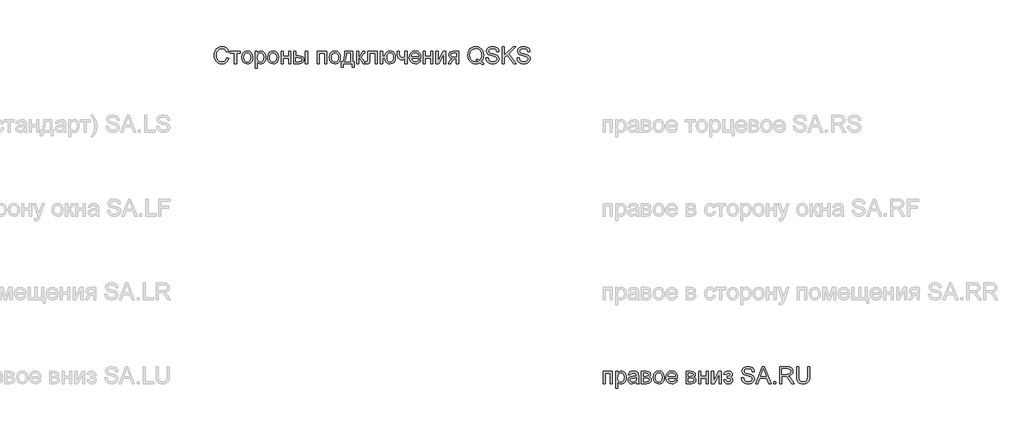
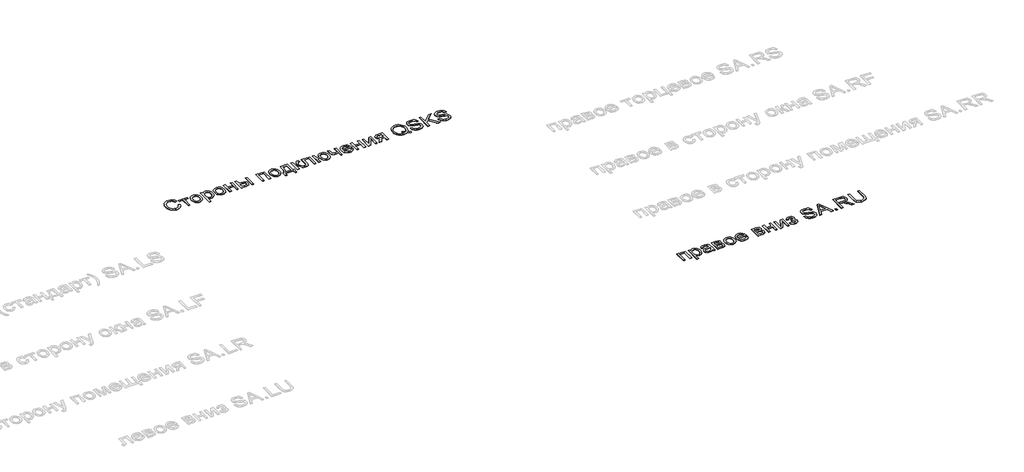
# One storey, part 7 of 17: 2 proxies.
"""IFC4 building model written with IfcOpenShell, lengths in millimetres."""

from ifc_helpers import new_model, si_unit, origin, origin_with_axes, place, context, project, spatial, polyline, outline, extrude, element, save

model = new_model("IFC4")

# Units and contexts
model_context = context("Model", 3, world=origin())
ifc_project = project(units=[si_unit("LENGTHUNIT", "METRE", prefix="MILLI")], contexts=[model_context])

# Site, building, storey
site = spatial("IfcSite", under=ifc_project)
building = spatial("IfcBuilding", under=site)
storey = spatial("IfcBuildingStorey", under=building, Name="Уровень 1", Elevation=0.0)

# Proxies
placement = place(None, origin())
element("IfcBuildingElementProxy", 1, Name="Текст модели 1", ObjectType="Текст модели 1", at=placement, inside=storey, context=model_context, shape_type="SweptSolid", body=[
    extrude(outline(polyline([(19945.2525165, -8836.8243123), (19970.366594, -8843.2990354), (19958.7783111, -8872.5640481), (19940.5926779, -8893.9441234), (19916.7048736, -8907.0223283), (19888.010078, -8911.3817299), (19858.8799554, -8908.0830547), (19835.7463092, -8898.187029), (19818.0143971, -8882.0370095), (19805.0894763, -8859.9763525), (19797.1984075, -8834.0406718), (19794.5680512, -8806.2655812), (19797.541764, -8776.9699116), (19806.4629024, -8751.6718931), (19820.8654825, -8731.1747346), (19840.2835205, -8716.2816452), (19863.3129334, -8707.213354), (19888.5496383, -8704.1905903), (19916.0856056, -8708.1024021), (19938.8513697, -8719.8378378), (19956.1356921, -8738.6733959), (19967.2273343, -8763.8855753), (19942.1132568, -8769.8697891), (19933.4067162, -8751.5553971), (19921.511865, -8738.992227), (19906.2815504, -8731.7265576), (19887.5686196, -8729.3046678), (19865.998472, -8731.9902064), (19848.2788225, -8740.0468221), (19834.8327356, -8752.6283863), (19826.0832755, -8768.8887705), (19821.2824154, -8787.2706075), (19819.6821288, -8806.2165303), (19821.576721, -8829.4176214), (19827.2604979, -8849.4794529), (19836.9480571, -8865.6356038), (19850.8539965, -8877.1196535), (19867.5251822, -8883.9806527), (19885.5084804, -8886.2676524), (19906.4716228, -8883.1529182), (19923.9398862, -8873.8087155), (19937.1284557, -8858.3331462), (19945.2525165, -8836.8243123)])), origin_with_axes(), (0.0, 0.0, 1.0), 2.0),
    extrude(outline(polyline([(19989.2021521, -8760.6972647), (20108.4940204, -8760.6972647), (20108.4940204, -8785.8113423), (20061.4051251, -8785.8113423), (20061.4051251, -8908.2424702), (20036.2910475, -8908.2424702), (20036.2910475, -8785.8113423), (19989.2021521, -8785.8113423), (19989.2021521, -8760.6972647)])), origin_with_axes(), (0.0, 0.0, 1.0), 2.0),
    extrude(outline(polyline([(20124.1903189, -8834.4698675), (20129.6227097, -8798.8956785), (20136.4131982, -8785.0725126), (20145.9198821, -8773.8919656), (20166.05529, -8761.6414952), (20190.1638234, -8757.558005), (20216.5470938, -8762.5305433), (20237.6206008, -8777.4481582), (20251.4345697, -8801.1336274), (20256.039226, -8832.4097283), (20254.0036123, -8857.7813232), (20247.8967712, -8877.095128), (20237.8965123, -8891.5590218), (20224.1806452, -8902.3808838), (20207.8896042, -8909.1315184), (20190.1638234, -8911.3817299), (20163.4617219, -8906.4275857), (20142.4127404, -8891.5651531), (20128.7459243, -8867.3830433), (20124.1903189, -8834.4698675)]), holes=[polyline([(20149.3043964, -8834.4208165), (20152.2106642, -8857.1497925), (20160.9294675, -8873.3427316), (20174.050592, -8883.0364222), (20190.1638234, -8886.2676524), (20206.2034784, -8883.0180281), (20219.3000774, -8873.2691552), (20228.0188807, -8856.8616183), (20230.9251484, -8833.6360016), (20228.0004866, -8811.5692133), (20219.226501, -8795.5970033), (20206.1115079, -8785.9033128), (20190.1638234, -8782.6720826), (20174.050592, -8785.89105), (20160.9294675, -8795.5479524), (20152.2106642, -8811.7041033), (20149.3043964, -8834.4208165)])]), origin_with_axes(), (0.0, 0.0, 1.0), 2.0),
    extrude(outline(polyline([(20284.2925632, -8964.7491447), (20284.2925632, -8760.6972647), (20309.4066407, -8760.6972647), (20309.4066407, -8785.3208329), (20326.7706709, -8764.498712), (20337.4637742, -8759.2931818), (20350.2170167, -8757.558005), (20367.2009022, -8759.9860262), (20382.0510721, -8767.2700897), (20394.142127, -8778.9687371), (20402.8486675, -8794.6405101), (20408.1093801, -8813.1449745), (20409.8629509, -8833.341696), (20407.8825195, -8854.8198732), (20401.9412253, -8874.0294447), (20392.2291406, -8889.9955233), (20378.9363378, -8901.7432217), (20363.4546372, -8908.9721029), (20347.1758589, -8911.3817299), (20335.6304956, -8909.7691805), (20325.3236684, -8904.9315323), (20309.4066407, -8888.6220972), (20309.4066407, -8964.7491447), (20284.2925632, -8964.7491447)]), holes=[polyline([(20309.4066407, -8835.6470899), (20312.1228361, -8858.161468), (20320.2714223, -8873.9068174), (20332.2950322, -8883.1774436), (20346.6362987, -8886.2676524), (20361.210557, -8883.067079), (20373.5407352, -8873.465359), (20381.9468388, -8857.1436611), (20384.7488734, -8833.7831544), (20382.0142839, -8811.3914037), (20373.8105154, -8795.4253251), (20361.8052996, -8785.8603932), (20347.6663682, -8782.6720826), (20333.4722546, -8786.0627283), (20321.0071863, -8796.2346654), (20312.3067771, -8812.869063), (20309.4066407, -8835.6470899)])]), origin_with_axes(), (0.0, 0.0, 1.0), 2.0),
    extrude(outline(polyline([(20431.8377687, -8834.4698675), (20437.2701595, -8798.8956785), (20444.060648, -8785.0725126), (20453.5673319, -8773.8919656), (20473.7027398, -8761.6414952), (20497.8112732, -8757.558005), (20524.1945436, -8762.5305433), (20545.2680506, -8777.4481582), (20559.0820195, -8801.1336274), (20563.6866758, -8832.4097283), (20561.6510621, -8857.7813232), (20555.544221, -8877.095128), (20545.5439621, -8891.5590218), (20531.828095, -8902.3808838), (20515.537054, -8909.1315184), (20497.8112732, -8911.3817299), (20471.1091717, -8906.4275857), (20450.0601902, -8891.5651531), (20436.3933741, -8867.3830433), (20431.8377687, -8834.4698675)]), holes=[polyline([(20456.9518463, -8834.4208165), (20459.858114, -8857.1497925), (20468.5769173, -8873.3427316), (20481.6980418, -8883.0364222), (20497.8112732, -8886.2676524), (20513.8509282, -8883.0180281), (20526.9475272, -8873.2691552), (20535.6663305, -8856.8616183), (20538.5725983, -8833.6360016), (20535.6479364, -8811.5692133), (20526.8739508, -8795.5970033), (20513.7589577, -8785.9033128), (20497.8112732, -8782.6720826), (20481.6980418, -8785.89105), (20468.5769173, -8795.5479524), (20459.858114, -8811.7041033), (20456.9518463, -8834.4208165)])]), origin_with_axes(), (0.0, 0.0, 1.0), 2.0),
    extrude(outline(polyline([(20591.940013, -8760.6972647), (20617.0540906, -8760.6972647), (20617.0540906, -8817.2039392), (20682.9785441, -8817.2039392), (20682.9785441, -8760.6972647), (20708.0926217, -8760.6972647), (20708.0926217, -8908.2424702), (20682.9785441, -8908.2424702), (20682.9785441, -8842.3180167), (20617.0540906, -8842.3180167), (20617.0540906, -8908.2424702), (20591.940013, -8908.2424702), (20591.940013, -8760.6972647)])), origin_with_axes(), (0.0, 0.0, 1.0), 2.0),
    extrude(outline(polyline([(20883.8911644, -8760.6972647), (20909.005242, -8760.6972647), (20909.005242, -8908.2424702), (20883.8911644, -8908.2424702), (20883.8911644, -8760.6972647)])), origin_with_axes(), (0.0, 0.0, 1.0), 2.0),
    extrude(outline(polyline([(20745.763738, -8760.6972647), (20770.8778155, -8760.6972647), (20770.8778155, -8814.0646795), (20801.9270559, -8814.0646795), (20828.7640474, -8817.2100705), (20848.6480693, -8826.6462437), (20860.953722, -8841.6129096), (20865.0556063, -8861.3497786), (20861.6159096, -8879.3208141), (20851.2968196, -8894.4836836), (20833.423886, -8904.8027736), (20807.3226585, -8908.2424702), (20745.763738, -8908.2424702), (20745.763738, -8760.6972647)]), holes=[polyline([(20770.8778155, -8883.1283927), (20796.6786061, -8883.1283927), (20816.6791239, -8881.8101489), (20829.9841894, -8877.8554174), (20837.4521939, -8871.1047828), (20839.9415287, -8861.3988295), (20838.0959874, -8853.195061), (20832.5593634, -8845.9477857), (20820.7196945, -8840.8710142), (20799.9650186, -8839.178757), (20770.8778155, -8839.178757), (20770.8778155, -8883.1283927)])]), origin_with_axes(), (0.0, 0.0, 1.0), 2.0),
    extrude(outline(polyline([(21025.1578506, -8760.6972647), (21138.1711995, -8760.6972647), (21138.1711995, -8908.2424702), (21113.0571219, -8908.2424702), (21113.0571219, -8785.8113423), (21050.2719281, -8785.8113423), (21050.2719281, -8908.2424702), (21025.1578506, -8908.2424702), (21025.1578506, -8760.6972647)])), origin_with_axes(), (0.0, 0.0, 1.0), 2.0),
    extrude(outline(polyline([(21169.5637964, -8834.4698675), (21174.9961872, -8798.8956785), (21181.7866757, -8785.0725126), (21191.2933596, -8773.8919656), (21211.4287675, -8761.6414952), (21235.5373009, -8757.558005), (21261.9205713, -8762.5305433), (21282.9940783, -8777.4481582), (21296.8080472, -8801.1336274), (21301.4127035, -8832.4097283), (21299.3770898, -8857.7813232), (21293.2702486, -8877.095128), (21283.2699897, -8891.5590218), (21269.5541227, -8902.3808838), (21253.2630817, -8909.1315184), (21235.5373009, -8911.3817299), (21208.8351994, -8906.4275857), (21187.7862179, -8891.5651531), (21174.1194018, -8867.3830433), (21169.5637964, -8834.4698675)]), holes=[polyline([(21194.6778739, -8834.4208165), (21197.5841417, -8857.1497925), (21206.302945, -8873.3427316), (21219.4240695, -8883.0364222), (21235.5373009, -8886.2676524), (21251.5769559, -8883.0180281), (21264.6735549, -8873.2691552), (21273.3923582, -8856.8616183), (21276.2986259, -8833.6360016), (21273.3739641, -8811.5692133), (21264.5999785, -8795.5970033), (21251.4849854, -8785.9033128), (21235.5373009, -8782.6720826), (21219.4240695, -8785.89105), (21206.302945, -8795.5479524), (21197.5841417, -8811.7041033), (21194.6778739, -8834.4208165)])]), origin_with_axes(), (0.0, 0.0, 1.0), 2.0),
    extrude(outline(polyline([(21351.6408586, -8760.6972647), (21445.8186493, -8760.6972647), (21445.8186493, -8883.1283927), (21464.6542075, -8883.1283927), (21464.6542075, -8949.0528462), (21439.5401299, -8949.0528462), (21439.5401299, -8908.2424702), (21335.9445601, -8908.2424702), (21335.9445601, -8949.0528462), (21310.8304826, -8949.0528462), (21310.8304826, -8883.1283927), (21326.526781, -8883.1283927), (21337.9372542, -8862.5086069), (21345.9264249, -8835.2301569), (21350.494293, -8801.2930429), (21351.6408586, -8760.6972647)]), holes=[polyline([(21373.6156764, -8785.8113423), (21367.7295645, -8843.0292552), (21354.7801182, -8883.1283927), (21420.7045718, -8883.1283927), (21420.7045718, -8785.8113423), (21373.6156764, -8785.8113423)])]), origin_with_axes(), (0.0, 0.0, 1.0), 2.0),
    extrude(outline(polyline([(21492.9075447, -8760.6972647), (21518.0216222, -8760.6972647), (21518.0216222, -8823.4824586), (21534.8460921, -8818.9697728), (21548.6294042, -8792.6784728), (21560.082797, -8769.9924165), (21570.1872892, -8762.6102511), (21588.5568634, -8760.6972647), (21593.3638548, -8760.6972647), (21593.3638548, -8785.9584951), (21586.5948261, -8785.8113423), (21574.332093, -8788.4600926), (21565.6991288, -8804.9902569), (21555.5701112, -8822.8693219), (21541.3698662, -8831.6249134), (21557.2133175, -8841.3983117), (21572.7624631, -8861.9874407), (21599.6423742, -8908.2424702), (21571.0947314, -8908.2424702), (21544.7543806, -8862.9684594), (21531.5106287, -8843.8140702), (21518.0216222, -8839.178757), (21518.0216222, -8908.2424702), (21492.9075447, -8908.2424702), (21492.9075447, -8760.6972647)])), origin_with_axes(), (0.0, 0.0, 1.0), 2.0),
    extrude(outline(polyline([(21627.8957115, -8760.6972647), (21740.9090604, -8760.6972647), (21740.9090604, -8908.0953174), (21715.7949828, -8908.0953174), (21715.7949828, -8785.8113423), (21653.009789, -8785.8113423), (21653.009789, -8856.1994307), (21651.3175318, -8888.6711481), (21642.0223801, -8902.3808838), (21632.7272283, -8906.7770736), (21620.0475622, -8908.2424702), (21599.6423742, -8906.967146), (21599.6423742, -8883.1283927), (21610.8750378, -8883.1283927), (21622.2303287, -8881.5832883), (21626.76754, -8876.6781951), (21627.8957115, -8854.7769536), (21627.8957115, -8760.6972647)])), origin_with_axes(), (0.0, 0.0, 1.0), 2.0),
    extrude(outline(polyline([(21778.5801767, -8760.6972647), (21803.6942542, -8760.6972647), (21803.6942542, -8817.2039392), (21831.9475915, -8817.2039392), (21838.4652341, -8791.5993523), (21851.4453372, -8772.861896), (21870.0662975, -8761.3839778), (21893.506512, -8757.558005), (21913.2065928, -8759.8082166), (21928.2590978, -8766.5588512), (21939.8719061, -8777.2580859), (21949.252897, -8791.3540976), (21955.4517086, -8809.8953502), (21957.5179791, -8833.9303072), (21953.2444166, -8867.4320942), (21940.4237291, -8891.7123059), (21920.2821899, -8906.4643739), (21894.0460722, -8911.3817299), (21869.5267373, -8906.7709423), (21850.4152676, -8892.9385792), (21837.5945801, -8871.0618633), (21831.9475915, -8842.3180167), (21803.6942542, -8842.3180167), (21803.6942542, -8908.2424702), (21778.5801767, -8908.2424702), (21778.5801767, -8760.6972647)]), holes=[polyline([(21895.1251928, -8782.6720826), (21879.1161946, -8785.9217069), (21867.0925847, -8795.6705797), (21859.5693979, -8811.2810391), (21857.061669, -8832.1154227), (21859.587792, -8856.389503), (21867.1661611, -8873.1955788), (21878.9751732, -8882.999634), (21894.193225, -8886.2676524), (21909.4541965, -8883.2448887), (21921.6862728, -8874.1765975), (21929.7244944, -8858.3760658), (21932.4039016, -8835.1565805), (21930.086245, -8812.1946127), (21923.1332753, -8795.7932071), (21911.4959415, -8785.9523637), (21895.1251928, -8782.6720826)])]), origin_with_axes(), (0.0, 0.0, 1.0), 2.0),
    extrude(outline(polyline([(21979.492797, -8760.6972647), (22004.6068745, -8760.6972647), (22004.6068745, -8788.9996529), (22006.6424882, -8815.5362075), (22016.4281493, -8829.9081307), (22025.1592153, -8834.5066557), (22035.8523186, -8836.0394973), (22070.5313281, -8828.4366028), (22070.5313281, -8760.6972647), (22095.6454056, -8760.6972647), (22095.6454056, -8908.2424702), (22070.5313281, -8908.2424702), (22070.5313281, -8852.5206107), (22049.0960705, -8858.9953338), (22029.1323409, -8861.1535749), (22013.9449458, -8858.9033633), (22000.6582744, -8852.1527287), (21990.3023963, -8842.1402071), (21983.9073809, -8830.1043345), (21979.492797, -8801.4095388), (21979.492797, -8760.6972647)])), origin_with_axes(), (0.0, 0.0, 1.0), 2.0),
    extrude(outline(polyline([(22236.6177861, -8864.2928346), (22261.2413544, -8867.4320942), (22252.3692669, -8885.9856095), (22238.2119415, -8899.8547608), (22219.0882091, -8908.4999876), (22195.3169008, -8911.3817299), (22165.849553, -8906.4091916), (22143.1757594, -8891.4915767), (22128.717997, -8867.5976411), (22123.8987428, -8835.6961408), (22128.7670479, -8802.7216513), (22143.3719631, -8778.0612949), (22165.7391884, -8762.6838275), (22193.8944238, -8757.558005), (22221.1728737, -8762.6715648), (22242.9698819, -8778.012244), (22257.2620974, -8802.6235494), (22262.0261693, -8835.548988), (22261.8790165, -8842.3180167), (22149.0128204, -8842.3180167), (22153.3599593, -8861.1167867), (22163.45832, -8874.936887), (22178.0325784, -8883.434961), (22195.8074101, -8886.2676524), (22220.4309784, -8881.0192026), (22229.5789773, -8874.2133857), (22236.6177861, -8864.2928346)]), holes=[polyline([(22149.0128204, -8817.2039392), (22236.9120917, -8817.2039392), (22233.5153147, -8803.9356619), (22226.8566505, -8794.4443064), (22212.2149471, -8785.6151385), (22193.7963219, -8782.6720826), (22176.8676188, -8785.020396), (22162.8697088, -8792.0653362), (22153.1392301, -8803.0466137), (22149.0128204, -8817.2039392)])]), origin_with_axes(), (0.0, 0.0, 1.0), 2.0),
    extrude(outline(polyline([(22287.1402468, -8760.6972647), (22312.2543244, -8760.6972647), (22312.2543244, -8817.2039392), (22378.1787779, -8817.2039392), (22378.1787779, -8760.6972647), (22403.2928554, -8760.6972647), (22403.2928554, -8908.2424702), (22378.1787779, -8908.2424702), (22378.1787779, -8842.3180167), (22312.2543244, -8842.3180167), (22312.2543244, -8908.2424702), (22287.1402468, -8908.2424702), (22287.1402468, -8760.6972647)])), origin_with_axes(), (0.0, 0.0, 1.0), 2.0),
    extrude(outline(polyline([(22440.9639717, -8760.6972647), (22466.0780493, -8760.6972647), (22466.0780493, -8873.2201043), (22527.7841226, -8760.6972647), (22560.25584, -8760.6972647), (22560.25584, -8908.2424702), (22535.1417625, -8908.2424702), (22535.1417625, -8796.4063437), (22473.8280966, -8908.2424702), (22440.9639717, -8908.2424702), (22440.9639717, -8760.6972647)])), origin_with_axes(), (0.0, 0.0, 1.0), 2.0),
    extrude(outline(polyline([(22710.9403053, -8760.6972647), (22710.9403053, -8908.2424702), (22685.8262277, -8908.2424702), (22685.8262277, -8851.7357958), (22672.1410175, -8851.7357958), (22653.5016631, -8854.9241064), (22635.9904801, -8876.359364), (22615.9776996, -8908.2424702), (22586.9395474, -8908.2424702), (22612.1517268, -8867.9226036), (22623.2862885, -8853.4525784), (22633.5379335, -8847.0269063), (22616.370107, -8841.7661937), (22604.3035776, -8831.7720662), (22597.1666669, -8818.4792634), (22594.7876967, -8803.3225252), (22598.0373209, -8786.1301733), (22607.7861938, -8772.5185395), (22623.6909587, -8763.6525834), (22645.4082592, -8760.6972647), (22710.9403053, -8760.6972647)]), holes=[polyline([(22685.8262277, -8785.8113423), (22652.7168482, -8785.8113423), (22635.6164668, -8787.2644761), (22625.9105134, -8791.6238778), (22619.9017742, -8805.2355116), (22622.1151975, -8814.8065748), (22628.7554675, -8821.4468449), (22641.0243321, -8825.3279999), (22660.123539, -8826.6217183), (22685.8262277, -8826.6217183), (22685.8262277, -8785.8113423)])]), origin_with_axes(), (0.0, 0.0, 1.0), 2.0),
    extrude(outline(polyline([(22981.1618935, -8884.1584623), (23012.3092357, -8905.1032106), (23005.540207, -8923.4973103), (22984.8284507, -8913.8955902), (22964.1902707, -8900.0019136), (22940.9523914, -8908.5367758), (22915.3845927, -8911.3817299), (22889.6941667, -8908.1014488), (22866.4808128, -8898.2606054), (22847.0382494, -8882.4784679), (22832.6601947, -8861.3743041), (22823.7758446, -8836.1069424), (22820.8143945, -8807.835211), (22823.7697132, -8779.5389542), (22832.6356693, -8753.9037105), (22846.9585416, -8732.4991098), (22866.2846091, -8716.8947818), (22889.4121239, -8707.3666381), (22915.1393381, -8704.1905903), (22941.0688873, -8707.4402145), (22964.3128981, -8717.1890874), (22983.6083087, -8732.787284), (22997.6920578, -8753.5848795), (23006.3004965, -8778.4782278), (23009.169976, -8806.3636831), (23007.4286679, -8829.5525115), (23002.2047436, -8850.2642678), (22993.4614148, -8868.4744266), (22981.1618935, -8884.1584623)]), holes=[polyline([(22922.3007742, -8850.7547771), (22943.4172007, -8858.7378164), (22960.4623999, -8869.83559), (22970.7845555, -8858.1859934), (22978.1575238, -8843.9366975), (22982.5813048, -8827.0877021), (22984.0558985, -8807.6390073), (22981.9712338, -8785.5354308), (22975.7172399, -8766.4116984), (22965.4472009, -8750.7521881), (22951.3144009, -8739.0412779), (22934.2753332, -8731.7388203), (22915.2864909, -8729.3046678), (22887.9160704, -8734.2281552), (22865.646947, -8748.9986173), (22857.0201142, -8760.0580697), (22850.8580908, -8773.5424777), (22845.928472, -8807.7861601), (22850.8029085, -8841.2940785), (22856.895954, -8854.7416983), (22865.4262178, -8865.9850917), (22887.6278962, -8881.1970122), (22915.2374399, -8886.2676524), (22942.2645038, -8881.1173045), (22915.8260511, -8869.9827427), (22922.3007742, -8850.7547771)])]), origin_with_axes(), (0.0, 0.0, 1.0), 2.0),
    extrude(outline(polyline([(23037.4233132, -8839.178757), (23062.5373908, -8839.178757), (23070.6307947, -8864.31736), (23078.7609868, -8873.2078416), (23090.3983206, -8880.2098622), (23104.623091, -8884.7532049), (23120.5155932, -8886.2676524), (23146.7578422, -8881.6813902), (23163.7049395, -8869.0753005), (23169.2722203, -8852.2263051), (23165.102891, -8836.5545321), (23158.7507953, -8830.3557205), (23148.0331665, -8825.1501903), (23111.4656961, -8815.5607329), (23072.1023227, -8803.1753724), (23059.6004662, -8794.7263493), (23050.7406415, -8784.4869671), (23045.4615348, -8772.677955), (23043.7018326, -8759.5200423), (23045.8784678, -8744.8108939), (23052.4083732, -8731.0950268), (23063.1198706, -8719.4699558), (23077.8412818, -8711.0331954), (23095.5118803, -8705.9012415), (23115.0709397, -8704.1905903), (23136.2609426, -8705.9809493), (23154.8021952, -8711.3520264), (23170.0325098, -8720.193457), (23181.2896988, -8732.3948766), (23188.4143468, -8747.1959955), (23191.2470382, -8763.8365244), (23166.1329606, -8763.8365244), (23161.522173, -8748.8514645), (23151.9081901, -8738.0357338), (23136.886342, -8731.4874343), (23116.0519584, -8729.3046678), (23094.7270654, -8731.4629088), (23080.0976247, -8737.9376319), (23071.6363388, -8747.4657756), (23068.8159102, -8758.7842783), (23070.8147357, -8768.4350493), (23076.8112122, -8776.1973594), (23090.9869317, -8783.1380664), (23117.8177919, -8790.2259262), (23162.2579369, -8802.8320159), (23176.5746779, -8811.9432266), (23186.5626741, -8823.188153), (23192.4303919, -8836.4441675), (23194.3862979, -8851.588643), (23192.1360863, -8867.0703436), (23185.3854517, -8881.6323393), (23174.4103055, -8894.1648526), (23159.4865592, -8903.5581062), (23141.5400493, -8909.425824), (23121.4966119, -8911.3817299), (23096.8914378, -8909.2725398), (23076.6395339, -8902.9449695), (23060.5079084, -8892.3744935), (23048.2635694, -8877.5365864), (23040.4031574, -8859.4613177), (23037.4233132, -8839.178757)])), origin_with_axes(), (0.0, 0.0, 1.0), 2.0),
    extrude(outline(polyline([(23232.0574142, -8908.2424702), (23232.0574142, -8707.3298499), (23257.1714917, -8707.3298499), (23257.1714917, -8805.67697), (23360.1784504, -8707.3298499), (23395.2989182, -8707.3298499), (23308.8221238, -8789.9316206), (23398.4381778, -8908.2424702), (23367.732294, -8908.2424702), (23291.0166353, -8806.9032433), (23257.1714917, -8839.178757), (23257.1714917, -8908.2424702), (23232.0574142, -8908.2424702)])), origin_with_axes(), (0.0, 0.0, 1.0), 2.0),
    extrude(outline(polyline([(23407.8559569, -8839.178757), (23432.9700345, -8839.178757), (23441.0634384, -8864.31736), (23449.1936305, -8873.2078416), (23460.8309642, -8880.2098622), (23475.0557347, -8884.7532049), (23490.9482369, -8886.2676524), (23517.1904859, -8881.6813902), (23534.1375831, -8869.0753005), (23539.704864, -8852.2263051), (23535.5355347, -8836.5545321), (23529.1834389, -8830.3557205), (23518.4658101, -8825.1501903), (23481.8983398, -8815.5607329), (23442.5349663, -8803.1753724), (23430.0331099, -8794.7263493), (23421.1732852, -8784.4869671), (23415.8941785, -8772.677955), (23414.1344763, -8759.5200423), (23416.3111114, -8744.8108939), (23422.8410169, -8731.0950268), (23433.5525143, -8719.4699558), (23448.2739255, -8711.0331954), (23465.944524, -8705.9012415), (23485.5035834, -8704.1905903), (23506.6935863, -8705.9809493), (23525.2348389, -8711.3520264), (23540.4651535, -8720.193457), (23551.7223425, -8732.3948766), (23558.8469905, -8747.1959955), (23561.6796818, -8763.8365244), (23536.5656043, -8763.8365244), (23531.9548166, -8748.8514645), (23522.3408338, -8738.0357338), (23507.3189857, -8731.4874343), (23486.484602, -8729.3046678), (23465.159709, -8731.4629088), (23450.5302684, -8737.9376319), (23442.0689825, -8747.4657756), (23439.2485538, -8758.7842783), (23441.2473794, -8768.4350493), (23447.2438559, -8776.1973594), (23461.4195754, -8783.1380664), (23488.2504356, -8790.2259262), (23532.6905806, -8802.8320159), (23547.0073216, -8811.9432266), (23556.9953178, -8823.188153), (23562.8630356, -8836.4441675), (23564.8189415, -8851.588643), (23562.56873, -8867.0703436), (23555.8180954, -8881.6323393), (23544.8429492, -8894.1648526), (23529.9192029, -8903.5581062), (23511.9726929, -8909.425824), (23491.9292556, -8911.3817299), (23467.3240814, -8909.2725398), (23447.0721776, -8902.9449695), (23430.9405521, -8892.3744935), (23418.6962131, -8877.5365864), (23410.8358011, -8859.4613177), (23407.8559569, -8839.178757)])), origin_with_axes(), (0.0, 0.0, 1.0), 2.0),
])
element("IfcBuildingElementProxy", 2, Name="Текст модели 1", ObjectType="Текст модели 1", at=placement, inside=storey, context=model_context, shape_type="SweptSolid", body=[
    extrude(outline(polyline([(24434.1363388, -12578.6972647), (24547.1496877, -12578.6972647), (24547.1496877, -12726.2424702), (24522.0356102, -12726.2424702), (24522.0356102, -12603.8113423), (24459.2504163, -12603.8113423), (24459.2504163, -12726.2424702), (24434.1363388, -12726.2424702), (24434.1363388, -12578.6972647)])), origin_with_axes(), (0.0, 0.0, 1.0), 2.0),
    extrude(outline(polyline([(24584.820804, -12782.7491447), (24584.820804, -12578.6972647), (24609.9348816, -12578.6972647), (24609.9348816, -12603.3208329), (24627.2989117, -12582.498712), (24637.9920151, -12577.2931818), (24650.7452576, -12575.558005), (24667.729143, -12577.9860262), (24682.5793129, -12585.2700897), (24694.6703678, -12596.9687371), (24703.3769083, -12612.6405101), (24708.6376209, -12631.1449745), (24710.3911917, -12651.341696), (24708.4107603, -12672.8198732), (24702.4694661, -12692.0294447), (24692.7573814, -12707.9955233), (24679.4645787, -12719.7432217), (24663.982878, -12726.9721029), (24647.7040997, -12729.3817299), (24636.1587365, -12727.7691805), (24625.8519092, -12722.9315323), (24609.9348816, -12706.6220972), (24609.9348816, -12782.7491447), (24584.820804, -12782.7491447)]), holes=[polyline([(24609.9348816, -12653.6470899), (24612.651077, -12676.161468), (24620.7996632, -12691.9068174), (24632.823273, -12701.1774436), (24647.1645395, -12704.2676524), (24661.7387978, -12701.067079), (24674.0689761, -12691.465359), (24682.4750796, -12675.1436611), (24685.2771142, -12651.7831544), (24682.5425247, -12629.3914037), (24674.3387562, -12613.4253251), (24662.3335404, -12603.8603932), (24648.1946091, -12600.6720826), (24634.0004954, -12604.0627283), (24621.5354271, -12614.2346654), (24612.835018, -12630.869063), (24609.9348816, -12653.6470899)])]), origin_with_axes(), (0.0, 0.0, 1.0), 2.0),
    extrude(outline(polyline([(24832.8223197, -12707.4069121), (24808.4685316, -12724.4275857), (24781.564095, -12729.3817299), (24760.5764272, -12726.4018858), (24745.0947266, -12717.4623533), (24735.5481888, -12703.8875077), (24732.3660096, -12687.0017241), (24737.173001, -12667.1360964), (24749.8036161, -12652.7151221), (24767.3883755, -12644.4745655), (24789.1179387, -12640.6976436), (24832.6751669, -12632.0646795), (24832.8223197, -12626.4728732), (24831.0932743, -12615.264735), (24825.9061382, -12607.9316206), (24814.3055926, -12602.4869671), (24798.1433103, -12600.6720826), (24783.1827758, -12601.8799618), (24772.7349272, -12605.5035994), (24765.6102792, -12612.2051831), (24760.6193468, -12622.6469004), (24735.5052692, -12619.5076407), (24746.3700508, -12594.9821744), (24755.6284144, -12586.7293549), (24768.2467668, -12580.6102511), (24801.3806719, -12575.558005), (24831.8167756, -12580.0216399), (24849.0091275, -12591.229778), (24856.7101239, -12608.2749771), (24857.9363972, -12630.249795), (24857.9363972, -12661.4952391), (24859.2117215, -12705.1260437), (24864.2149166, -12726.2424702), (24839.1008391, -12726.2424702), (24832.8223197, -12707.4069121)]), holes=[polyline([(24832.8223197, -12657.178757), (24792.3062493, -12664.8797535), (24770.6993135, -12668.9509809), (24760.9136524, -12675.5728568), (24757.4800871, -12685.2358905), (24759.3501539, -12692.703895), (24764.9603543, -12698.8229989), (24774.188061, -12702.906489), (24786.9106467, -12704.2676524), (24800.3996532, -12702.7654676), (24812.3190298, -12698.2589131), (24828.7020414, -12683.7153116), (24832.6751669, -12664.2911423), (24832.8223197, -12657.178757)])]), origin_with_axes(), (0.0, 0.0, 1.0), 2.0),
    extrude(outline(polyline([(24892.4682539, -12578.6972647), (24947.7977059, -12578.6972647), (24978.1357078, -12582.0572536), (24995.2054324, -12594.3690377), (25000.5581154, -12604.2098811), (25002.3423431, -12615.8288208), (24998.025861, -12633.2664273), (24985.0273638, -12645.7008388), (24994.3225156, -12650.9186317), (25001.9008847, -12659.3124726), (25006.940868, -12670.2201737), (25008.6208625, -12682.9795476), (25004.3656941, -12702.1216741), (24994.2489392, -12715.5984179), (24978.2338097, -12723.5814571), (24956.2835173, -12726.2424702), (24892.4682539, -12726.2424702), (24892.4682539, -12578.6972647)]), holes=[polyline([(24917.5823314, -12701.1283927), (24948.3863171, -12701.1283927), (24965.1739988, -12699.9940899), (24975.7076866, -12696.5911814), (24981.3608066, -12690.4046326), (24983.5067849, -12680.9194084), (24979.2148283, -12668.8283535), (24968.0312157, -12661.7895447), (24945.9337705, -12660.3180167), (24917.5823314, -12660.3180167), (24917.5823314, -12701.1283927)]), polyline([(24917.5823314, -12635.2039392), (24942.4021033, -12635.2039392), (24962.8808677, -12633.9286149), (24972.8382071, -12628.8273179), (24977.2282655, -12619.6057426), (24975.3030164, -12612.1132126), (24969.5272691, -12607.2939585), (24943.1869183, -12603.8113423), (24917.5823314, -12603.8113423), (24917.5823314, -12635.2039392)])]), origin_with_axes(), (0.0, 0.0, 1.0), 2.0),
    extrude(outline(polyline([(25033.73494, -12652.4698675), (25039.1673308, -12616.8956785), (25045.9578193, -12603.0725126), (25055.4645032, -12591.8919656), (25075.5999111, -12579.6414952), (25099.7084445, -12575.558005), (25126.0917149, -12580.5305433), (25147.1652219, -12595.4481582), (25160.9791908, -12619.1336274), (25165.5838471, -12650.4097283), (25163.5482334, -12675.7813232), (25157.4413923, -12695.095128), (25147.4411333, -12709.5590218), (25133.7252663, -12720.3808838), (25117.4342253, -12727.1315184), (25099.7084445, -12729.3817299), (25073.006343, -12724.4275857), (25051.9573615, -12709.5651531), (25038.2905454, -12685.3830433), (25033.73494, -12652.4698675)]), holes=[polyline([(25058.8490175, -12652.4208165), (25061.7552853, -12675.1497925), (25070.4740886, -12691.3427316), (25083.5952131, -12701.0364222), (25099.7084445, -12704.2676524), (25115.7480995, -12701.0180281), (25128.8446985, -12691.2691552), (25137.5635018, -12674.8616183), (25140.4697695, -12651.6360016), (25137.5451077, -12629.5692133), (25128.7711221, -12613.5970033), (25115.656129, -12603.9033128), (25099.7084445, -12600.6720826), (25083.5952131, -12603.89105), (25070.4740886, -12613.5479524), (25061.7552853, -12629.7041033), (25058.8490175, -12652.4208165)])]), origin_with_axes(), (0.0, 0.0, 1.0), 2.0),
    extrude(outline(polyline([(25297.1384486, -12682.2928346), (25321.7620168, -12685.4320942), (25312.8899293, -12703.9856095), (25298.7326039, -12717.8547608), (25279.6088715, -12726.4999876), (25255.8375632, -12729.3817299), (25226.3702154, -12724.4091916), (25203.6964218, -12709.4915767), (25189.2386594, -12685.5976411), (25184.4194052, -12653.6961408), (25189.2877103, -12620.7216513), (25203.8926255, -12596.0612949), (25226.2598508, -12580.6838275), (25254.4150862, -12575.558005), (25281.6935361, -12580.6715648), (25303.4905443, -12596.012244), (25317.7827598, -12620.6235494), (25322.5468317, -12653.548988), (25322.3996789, -12660.3180167), (25209.5334828, -12660.3180167), (25213.8806217, -12679.1167867), (25223.9789824, -12692.936887), (25238.5532408, -12701.434961), (25256.3280726, -12704.2676524), (25280.9516408, -12699.0192026), (25290.0996397, -12692.2133857), (25297.1384486, -12682.2928346)]), holes=[polyline([(25209.5334828, -12635.2039392), (25297.4327541, -12635.2039392), (25294.0359771, -12621.9356619), (25287.3773129, -12612.4443064), (25272.7356095, -12603.6151385), (25254.3169843, -12600.6720826), (25237.3882812, -12603.020396), (25223.3903713, -12610.0653362), (25213.6598925, -12621.0466137), (25209.5334828, -12635.2039392)])]), origin_with_axes(), (0.0, 0.0, 1.0), 2.0),
    extrude(outline(polyline([(25426.1424015, -12578.6972647), (25481.4718536, -12578.6972647), (25511.8098555, -12582.0572536), (25528.87958, -12594.3690377), (25534.2322631, -12604.2098811), (25536.0164908, -12615.8288208), (25531.7000087, -12633.2664273), (25518.7015115, -12645.7008388), (25527.9966633, -12650.9186317), (25535.5750324, -12659.3124726), (25540.6150157, -12670.2201737), (25542.2950101, -12682.9795476), (25538.0398417, -12702.1216741), (25527.9230869, -12715.5984179), (25511.9079573, -12723.5814571), (25489.957665, -12726.2424702), (25426.1424015, -12726.2424702), (25426.1424015, -12578.6972647)]), holes=[polyline([(25451.2564791, -12635.2039392), (25476.076251, -12635.2039392), (25496.5550154, -12633.9286149), (25506.5123547, -12628.8273179), (25510.9024132, -12619.6057426), (25508.9771641, -12612.1132126), (25503.2014168, -12607.2939585), (25476.8610659, -12603.8113423), (25451.2564791, -12603.8113423), (25451.2564791, -12635.2039392)]), polyline([(25451.2564791, -12701.1283927), (25482.0604648, -12701.1283927), (25498.8481465, -12699.9940899), (25509.3818343, -12696.5911814), (25515.0349543, -12690.4046326), (25517.1809326, -12680.9194084), (25512.888976, -12668.8283535), (25501.7053633, -12661.7895447), (25479.6079182, -12660.3180167), (25451.2564791, -12660.3180167), (25451.2564791, -12701.1283927)])]), origin_with_axes(), (0.0, 0.0, 1.0), 2.0),
    extrude(outline(polyline([(25573.6876071, -12578.6972647), (25598.8016846, -12578.6972647), (25598.8016846, -12635.2039392), (25664.7261381, -12635.2039392), (25664.7261381, -12578.6972647), (25689.8402157, -12578.6972647), (25689.8402157, -12726.2424702), (25664.7261381, -12726.2424702), (25664.7261381, -12660.3180167), (25598.8016846, -12660.3180167), (25598.8016846, -12726.2424702), (25573.6876071, -12726.2424702), (25573.6876071, -12578.6972647)])), origin_with_axes(), (0.0, 0.0, 1.0), 2.0),
    extrude(outline(polyline([(25727.511332, -12578.6972647), (25752.6254095, -12578.6972647), (25752.6254095, -12691.2201043), (25814.3314828, -12578.6972647), (25846.8032003, -12578.6972647), (25846.8032003, -12726.2424702), (25821.6891227, -12726.2424702), (25821.6891227, -12614.4063437), (25760.3754569, -12726.2424702), (25727.511332, -12726.2424702), (25727.511332, -12578.6972647)])), origin_with_axes(), (0.0, 0.0, 1.0), 2.0),
    extrude(outline(polyline([(25919.0061732, -12660.3180167), (25919.0061732, -12635.2039392), (25938.82275, -12634.2229205), (25948.8291403, -12628.9989962), (25953.5380298, -12618.0851637), (25951.9622686, -12610.9421216), (25947.234985, -12605.4054976), (25930.9746008, -12600.6720826), (25914.1746563, -12605.3809721), (25903.3098747, -12619.5076407), (25875.0565375, -12616.368381), (25882.5490675, -12598.5138415), (25893.9411466, -12585.760599), (25909.2327749, -12578.1086535), (25928.4239523, -12575.558005), (25949.4177515, -12578.6666079), (25965.3102537, -12587.9924165), (25975.3166439, -12601.6347071), (25978.6521074, -12617.6927562), (25973.9064296, -12633.2909528), (25959.6693964, -12645.3574822), (25976.2731371, -12661.0047298), (25981.791367, -12683.5191079), (25978.2903567, -12702.0051781), (25967.7873258, -12716.6530129), (25950.9935127, -12726.1995507), (25928.620156, -12729.3817299), (25906.7373087, -12726.438674), (25889.9925465, -12717.6095061), (25878.3858696, -12702.8942263), (25871.9172778, -12682.2928346), (25900.170615, -12679.1535749), (25904.401258, -12689.7731018), (25911.5013805, -12697.6948274), (25920.6493794, -12702.6244462), (25931.0236517, -12704.2676524), (25941.1281438, -12702.6918912), (25949.3687005, -12697.9646076), (25954.8501423, -12690.7847773), (25956.6772895, -12681.8513762), (25952.1400782, -12668.6566753), (25942.4770445, -12661.593341), (25923.9112665, -12660.1708639), (25919.0061732, -12660.3180167)])), origin_with_axes(), (0.0, 0.0, 1.0), 2.0),
    extrude(outline(polyline([(26085.3869369, -12657.178757), (26110.5010144, -12657.178757), (26118.5944183, -12682.31736), (26126.7246104, -12691.2078416), (26138.3619442, -12698.2098622), (26152.5867147, -12702.7532049), (26168.4792169, -12704.2676524), (26194.7214659, -12699.6813902), (26211.6685631, -12687.0753005), (26217.235844, -12670.2263051), (26213.0665147, -12654.5545321), (26206.7144189, -12648.3557205), (26195.9967901, -12643.1501903), (26159.4293198, -12633.5607329), (26120.0659463, -12621.1753724), (26107.5640898, -12612.7263493), (26098.7042651, -12602.4869671), (26093.4251585, -12590.677955), (26091.6654563, -12577.5200423), (26093.8420914, -12562.8108939), (26100.3719968, -12549.0950268), (26111.0834942, -12537.4699558), (26125.8049054, -12529.0331954), (26143.4755039, -12523.9012415), (26163.0345633, -12522.1905903), (26184.2245663, -12523.9809493), (26202.7658188, -12529.3520264), (26217.9961334, -12538.193457), (26229.2533225, -12550.3948766), (26236.3779704, -12565.1959955), (26239.2106618, -12581.8365244), (26214.0965843, -12581.8365244), (26209.4857966, -12566.8514645), (26199.8718138, -12556.0357338), (26184.8499656, -12549.4874343), (26164.015582, -12547.3046678), (26142.690689, -12549.4629088), (26128.0612483, -12555.9376319), (26119.5999624, -12565.4657756), (26116.7795338, -12576.7842783), (26118.7783593, -12586.4350493), (26124.7748358, -12594.1973594), (26138.9505554, -12601.1380664), (26165.7814156, -12608.2259262), (26210.2215606, -12620.8320159), (26224.5383016, -12629.9432266), (26234.5262977, -12641.188153), (26240.3940156, -12654.4441675), (26242.3499215, -12669.588643), (26240.09971, -12685.0703436), (26233.3490753, -12699.6323393), (26222.3739292, -12712.1648526), (26207.4501829, -12721.5581062), (26189.5036729, -12727.425824), (26169.4602355, -12729.3817299), (26144.8550614, -12727.2725398), (26124.6031576, -12720.9449695), (26108.4715321, -12710.3744935), (26096.227193, -12695.5365864), (26088.366781, -12677.4613177), (26085.3869369, -12657.178757)])), origin_with_axes(), (0.0, 0.0, 1.0), 2.0),
    extrude(outline(polyline([(26256.6237429, -12726.2424702), (26336.8220179, -12525.3298499), (26358.2082245, -12525.3298499), (26438.4064995, -12726.2424702), (26411.8699449, -12726.2424702), (26388.8650574, -12663.4572764), (26306.116134, -12663.4572764), (26283.1602975, -12726.2424702), (26256.6237429, -12726.2424702)]), holes=[polyline([(26315.3377093, -12638.3431989), (26379.692533, -12638.3431989), (26361.5927389, -12588.9489096), (26347.5151212, -12550.4439275), (26335.0071333, -12584.6324276), (26315.3377093, -12638.3431989)])]), origin_with_axes(), (0.0, 0.0, 1.0), 2.0),
    extrude(outline(polyline([(26468.3766193, -12726.2424702), (26468.3766193, -12701.1283927), (26493.4906969, -12701.1283927), (26493.4906969, -12726.2424702), (26468.3766193, -12726.2424702)])), origin_with_axes(), (0.0, 0.0, 1.0), 2.0),
    extrude(outline(polyline([(26543.7188519, -12726.2424702), (26543.7188519, -12525.3298499), (26630.2937481, -12525.3298499), (26653.5622843, -12526.684882), (26670.4909875, -12530.749978), (26682.8640853, -12538.2547707), (26692.4658053, -12549.9288927), (26698.6278287, -12564.4050492), (26700.6818366, -12580.3159455), (26697.2789281, -12600.1079968), (26687.0702027, -12616.5155338), (26669.7490921, -12628.5452751), (26645.0090279, -12635.2039392), (26659.2828494, -12645.9460934), (26679.6389864, -12671.795935), (26713.1407735, -12726.2424702), (26683.9554685, -12726.2424702), (26657.8113214, -12684.5982284), (26638.9267123, -12657.0316042), (26625.658435, -12644.0085816), (26613.7145329, -12639.2261157), (26599.1464059, -12638.3431989), (26568.8329295, -12638.3431989), (26568.8329295, -12726.2424702), (26543.7188519, -12726.2424702)]), holes=[polyline([(26568.8329295, -12613.2291213), (26625.0452983, -12613.2291213), (26653.7155685, -12609.6729287), (26663.1456103, -12605.0498783), (26670.0004782, -12598.2931123), (26675.567759, -12581.2479132), (26672.9128773, -12568.9974428), (26664.9482321, -12559.1259426), (26651.2446278, -12552.6144313), (26631.3728687, -12550.4439275), (26568.8329295, -12550.4439275), (26568.8329295, -12613.2291213)])]), origin_with_axes(), (0.0, 0.0, 1.0), 2.0),
    extrude(outline(polyline([(26876.4803793, -12525.3298499), (26901.5944569, -12525.3298499), (26901.5944569, -12641.2372039), (26899.8899369, -12668.3807638), (26894.7763772, -12689.2825925), (26885.2237081, -12705.4080866), (26870.2018599, -12718.2226428), (26849.6740446, -12726.5919581), (26823.6034739, -12729.3817299), (26798.1031202, -12726.9537088), (26777.7163263, -12719.6696453), (26762.4369608, -12707.7809255), (26752.2588923, -12691.5389354), (26746.5383272, -12669.7541899), (26744.6314722, -12641.2372039), (26744.6314722, -12525.3298499), (26769.7455498, -12525.3298499), (26769.7455498, -12640.3542871), (26770.9840858, -12662.9238475), (26774.699694, -12678.6385401), (26781.4319345, -12689.5217158), (26791.7203676, -12697.5967256), (26805.1357977, -12702.5999207), (26821.2490291, -12704.2676524), (26846.7923023, -12700.9689772), (26863.7761877, -12691.0729515), (26873.3043314, -12671.795935), (26876.4803793, -12640.3542871), (26876.4803793, -12525.3298499)])), origin_with_axes(), (0.0, 0.0, 1.0), 2.0),
])

save(model, "model.ifc")
